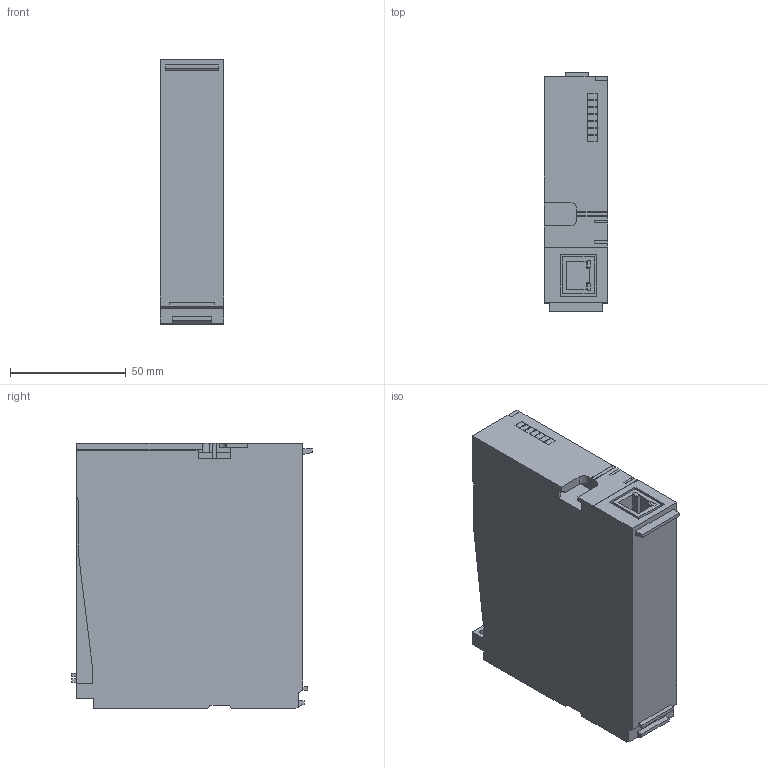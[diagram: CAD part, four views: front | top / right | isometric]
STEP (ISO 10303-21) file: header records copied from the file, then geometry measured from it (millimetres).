
FILE_DESCRIPTION (( 'STEP AP203' ), '1' );
FILE_NAME ('q03udvcpu_a.step', '2012-11-21T09:59:07', ( ' ' ), ( '' ), 'SwSTEP 2.0', 'SolidWorks 2006303', '' );
FILE_SCHEMA (( 'CONFIG_CONTROL_DESIGN' ));
Length unit declared in the file: millimetre
Products named in the file (1): q03udvcpu_a
Bounding box: 27.4 x 104 x 115 mm (x, y, z)
Volume: 299534.3 mm3; surface area: 41492.6 mm2
Topology: 3 solids, 3 shells, 188 faces, 493 edges, 328 vertices
Faces by surface type: plane 184, cylinder 4
Entity records: 5746 total; most frequent: CARTESIAN_POINT 1010, ORIENTED_EDGE 986, DIRECTION 879, EDGE_CURVE 493, VECTOR 485, LINE 485, VERTEX_POINT 328, EDGE_LOOP 207
